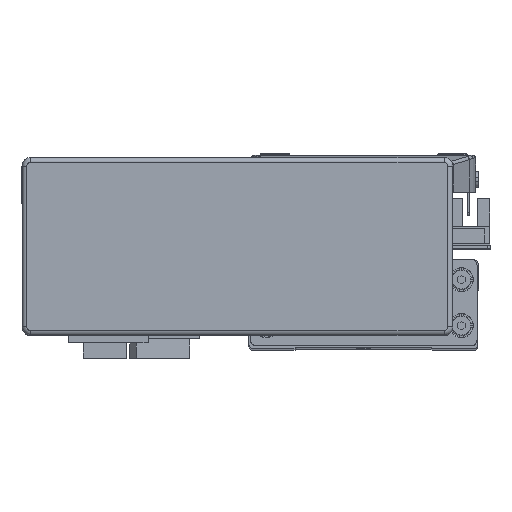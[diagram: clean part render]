
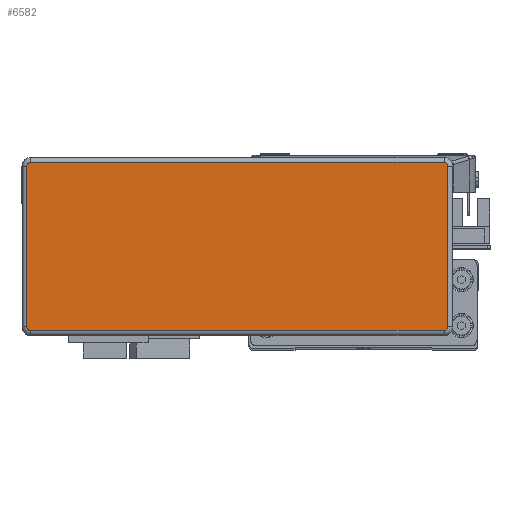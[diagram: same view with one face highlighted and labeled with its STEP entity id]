
A CAD part, top view. The second image highlights one B-rep face of the part: STEP entity #6582.
In plain terms, the highlighted planar face has unit normal (0, 0, 1) as drawn and (0, 0, -1) by its records, which use the part's own axes.
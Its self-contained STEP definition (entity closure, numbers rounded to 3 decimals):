
#5887 = FACE_OUTER_BOUND ( 'NONE', #42789, .T. ) ;
#6582 = ADVANCED_FACE ( 'NONE', ( #5887 ), #21497, .F. ) ;
#6784 = CARTESIAN_POINT ( 'NONE',  ( 73.295, -27.995, -32.2 ) ) ;
#6786 = CARTESIAN_POINT ( 'NONE',  ( -71.995, 29.295, -32.2 ) ) ;
#6813 = CARTESIAN_POINT ( 'NONE',  ( 71.995, -29.295, -32.2 ) ) ;
#6814 = CARTESIAN_POINT ( 'NONE',  ( 73.295, 27.995, -32.2 ) ) ;
#6832 = CARTESIAN_POINT ( 'NONE',  ( -73.295, 27.995, -32.2 ) ) ;
#6855 = CARTESIAN_POINT ( 'NONE',  ( -71.995, -29.295, -32.2 ) ) ;
#6900 = CARTESIAN_POINT ( 'NONE',  ( 71.995, 29.295, -32.2 ) ) ;
#6903 = CARTESIAN_POINT ( 'NONE',  ( -73.295, -27.995, -32.2 ) ) ;
#11891 = VECTOR ( 'NONE', #30466, 1000. ) ;
#11894 = LINE ( 'NONE', #30450, #11896 ) ;
#11896 = VECTOR ( 'NONE', #30468, 1000. ) ;
#11900 = LINE ( 'NONE', #30475, #11891 ) ;
#11909 = LINE ( 'NONE', #30476, #11913 ) ;
#11913 = VECTOR ( 'NONE', #30456, 1000. ) ;
#11915 = CIRCLE ( 'NONE', #32486, 1.3 ) ;
#11932 = LINE ( 'NONE', #30555, #11972 ) ;
#11934 = CIRCLE ( 'NONE', #32443, 1.3 ) ;
#11958 = CIRCLE ( 'NONE', #32444, 1.3 ) ;
#11972 = VECTOR ( 'NONE', #30535, 1000. ) ;
#11974 = CIRCLE ( 'NONE', #32469, 1.3 ) ;
#21469 = CARTESIAN_POINT ( 'NONE',  ( 71.995, -27.995, -32.2 ) ) ;
#21475 = DIRECTION ( 'NONE',  ( 1., 0., 0. ) ) ;
#21497 = PLANE ( 'NONE',  #27030 ) ;
#21503 = DIRECTION ( 'NONE',  ( 0., 0., 1. ) ) ;
#21922 = ORIENTED_EDGE ( 'NONE', *, *, #33889, .T. ) ;
#21934 = ORIENTED_EDGE ( 'NONE', *, *, #33905, .T. ) ;
#21977 = ORIENTED_EDGE ( 'NONE', *, *, #33890, .T. ) ;
#21986 = ORIENTED_EDGE ( 'NONE', *, *, #33909, .T. ) ;
#21994 = ORIENTED_EDGE ( 'NONE', *, *, #33932, .T. ) ;
#21995 = ORIENTED_EDGE ( 'NONE', *, *, #33955, .T. ) ;
#22010 = ORIENTED_EDGE ( 'NONE', *, *, #33891, .T. ) ;
#22016 = ORIENTED_EDGE ( 'NONE', *, *, #33888, .T. ) ;
#24389 = VERTEX_POINT ( 'NONE', #6832 ) ;
#24397 = VERTEX_POINT ( 'NONE', #6813 ) ;
#24400 = VERTEX_POINT ( 'NONE', #6784 ) ;
#24401 = VERTEX_POINT ( 'NONE', #6786 ) ;
#24407 = VERTEX_POINT ( 'NONE', #6814 ) ;
#24420 = VERTEX_POINT ( 'NONE', #6903 ) ;
#24425 = VERTEX_POINT ( 'NONE', #6900 ) ;
#24435 = VERTEX_POINT ( 'NONE', #6855 ) ;
#27030 = AXIS2_PLACEMENT_3D ( 'NONE', #21469, #21503, #21475 ) ;
#30443 = CARTESIAN_POINT ( 'NONE',  ( 71.995, 27.995, -32.2 ) ) ;
#30444 = DIRECTION ( 'NONE',  ( 1., 0., 0. ) ) ;
#30450 = CARTESIAN_POINT ( 'NONE',  ( -73.295, -27.995, -32.2 ) ) ;
#30456 = DIRECTION ( 'NONE',  ( -1., 0., 0. ) ) ;
#30466 = DIRECTION ( 'NONE',  ( 0., -1., 0. ) ) ;
#30468 = DIRECTION ( 'NONE',  ( 0., 1., 0. ) ) ;
#30474 = DIRECTION ( 'NONE',  ( 0., 0., -1. ) ) ;
#30475 = CARTESIAN_POINT ( 'NONE',  ( 73.295, -27.995, -32.2 ) ) ;
#30476 = CARTESIAN_POINT ( 'NONE',  ( 71.995, -29.295, -32.2 ) ) ;
#30483 = DIRECTION ( 'NONE',  ( 1., 0., 0. ) ) ;
#30486 = DIRECTION ( 'NONE',  ( 0., 0., -1. ) ) ;
#30487 = CARTESIAN_POINT ( 'NONE',  ( 71.995, -27.995, -32.2 ) ) ;
#30488 = CARTESIAN_POINT ( 'NONE',  ( -71.995, 27.995, -32.2 ) ) ;
#30506 = DIRECTION ( 'NONE',  ( 1., 0., 0. ) ) ;
#30513 = DIRECTION ( 'NONE',  ( 0., 0., -1. ) ) ;
#30535 = DIRECTION ( 'NONE',  ( 1., 0., 0. ) ) ;
#30555 = CARTESIAN_POINT ( 'NONE',  ( 71.995, 29.295, -32.2 ) ) ;
#30568 = DIRECTION ( 'NONE',  ( 1., 0., 0. ) ) ;
#30569 = DIRECTION ( 'NONE',  ( 0., 0., -1. ) ) ;
#30583 = CARTESIAN_POINT ( 'NONE',  ( -71.995, -27.995, -32.2 ) ) ;
#32443 = AXIS2_PLACEMENT_3D ( 'NONE', #30487, #30513, #30506 ) ;
#32444 = AXIS2_PLACEMENT_3D ( 'NONE', #30583, #30569, #30568 ) ;
#32469 = AXIS2_PLACEMENT_3D ( 'NONE', #30488, #30486, #30483 ) ;
#32486 = AXIS2_PLACEMENT_3D ( 'NONE', #30443, #30474, #30444 ) ;
#33888 = EDGE_CURVE ( 'NONE', #24425, #24407, #11915, .T. ) ;
#33889 = EDGE_CURVE ( 'NONE', #24420, #24389, #11894, .T. ) ;
#33890 = EDGE_CURVE ( 'NONE', #24397, #24435, #11909, .T. ) ;
#33891 = EDGE_CURVE ( 'NONE', #24407, #24400, #11900, .T. ) ;
#33905 = EDGE_CURVE ( 'NONE', #24389, #24401, #11974, .T. ) ;
#33909 = EDGE_CURVE ( 'NONE', #24400, #24397, #11934, .T. ) ;
#33932 = EDGE_CURVE ( 'NONE', #24401, #24425, #11932, .T. ) ;
#33955 = EDGE_CURVE ( 'NONE', #24435, #24420, #11958, .T. ) ;
#42789 = EDGE_LOOP ( 'NONE', ( #22010, #21986, #21977, #21995, #21922, #21934, #21994, #22016 ) ) ;
